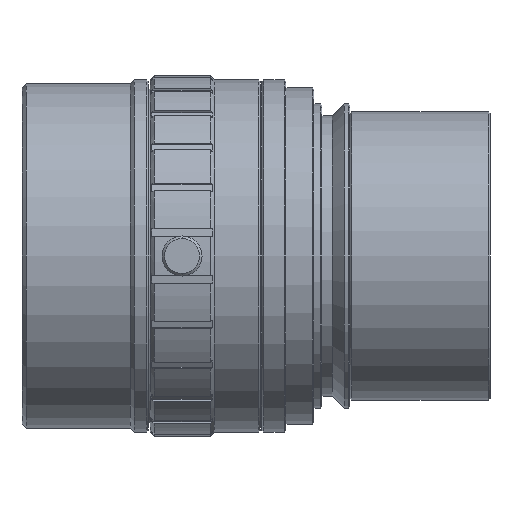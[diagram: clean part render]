
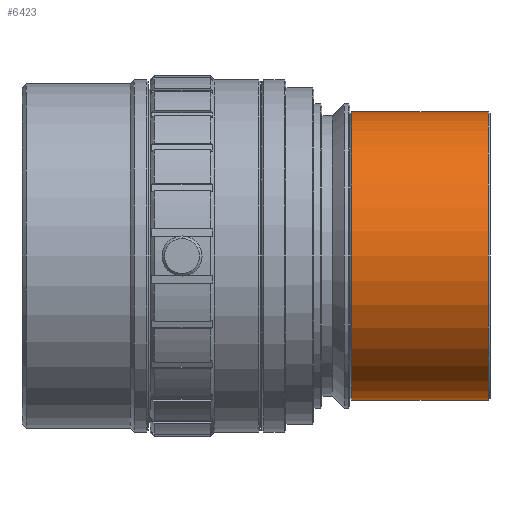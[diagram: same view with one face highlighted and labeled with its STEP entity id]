
A CAD part, front view. The second image highlights one B-rep face of the part: STEP entity #6423.
In plain terms, the highlighted cylindrical face has radius 18 mm (diameter 36 mm), a partial arc.
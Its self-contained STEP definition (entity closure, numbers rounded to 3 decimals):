
#677 = CARTESIAN_POINT ( 'NONE',  ( 2.671, 0., -18. ) ) ;
#713 = ORIENTED_EDGE ( 'NONE', *, *, #2428, .F. ) ;
#868 = VECTOR ( 'NONE', #1865, 1000. ) ;
#953 = EDGE_CURVE ( 'NONE', #2960, #1882, #6367, .T. ) ;
#1072 = VECTOR ( 'NONE', #6323, 1000. ) ;
#1091 = CARTESIAN_POINT ( 'NONE',  ( 41.169, 0., 18. ) ) ;
#1480 = DIRECTION ( 'NONE',  ( 0., 0., 1. ) ) ;
#1596 = ORIENTED_EDGE ( 'NONE', *, *, #5005, .T. ) ;
#1865 = DIRECTION ( 'NONE',  ( -1., 0., 0. ) ) ;
#1882 = VERTEX_POINT ( 'NONE', #1091 ) ;
#2196 = DIRECTION ( 'NONE',  ( -1., 0., 0. ) ) ;
#2428 = EDGE_CURVE ( 'NONE', #6172, #2960, #3978, .T. ) ;
#2670 = CARTESIAN_POINT ( 'NONE',  ( 41.169, 0., 0. ) ) ;
#2960 = VERTEX_POINT ( 'NONE', #6407 ) ;
#3021 = DIRECTION ( 'NONE',  ( -1., 0., 0. ) ) ;
#3200 = DIRECTION ( 'NONE',  ( 0., 0., 1. ) ) ;
#3211 = CYLINDRICAL_SURFACE ( 'NONE', #6271, 18. ) ;
#3364 = FACE_OUTER_BOUND ( 'NONE', #5166, .T. ) ;
#3918 = VERTEX_POINT ( 'NONE', #5248 ) ;
#3978 = LINE ( 'NONE', #677, #1072 ) ;
#4160 = AXIS2_PLACEMENT_3D ( 'NONE', #5299, #2196, #5825 ) ;
#4243 = CARTESIAN_POINT ( 'NONE',  ( 58.269, 0., -18. ) ) ;
#4254 = ORIENTED_EDGE ( 'NONE', *, *, #5868, .T. ) ;
#4745 = ORIENTED_EDGE ( 'NONE', *, *, #953, .F. ) ;
#5005 = EDGE_CURVE ( 'NONE', #6172, #3918, #6280, .T. ) ;
#5166 = EDGE_LOOP ( 'NONE', ( #713, #1596, #4254, #4745 ) ) ;
#5248 = CARTESIAN_POINT ( 'NONE',  ( 58.269, 0., 18. ) ) ;
#5299 = CARTESIAN_POINT ( 'NONE',  ( 58.269, 0., 0. ) ) ;
#5488 = CARTESIAN_POINT ( 'NONE',  ( 2.671, 0., 18. ) ) ;
#5825 = DIRECTION ( 'NONE',  ( 0., 0., 1. ) ) ;
#5868 = EDGE_CURVE ( 'NONE', #3918, #1882, #6192, .T. ) ;
#6094 = AXIS2_PLACEMENT_3D ( 'NONE', #2670, #6276, #3200 ) ;
#6106 = CARTESIAN_POINT ( 'NONE',  ( 2.671, 0., 0. ) ) ;
#6172 = VERTEX_POINT ( 'NONE', #4243 ) ;
#6192 = LINE ( 'NONE', #5488, #868 ) ;
#6271 = AXIS2_PLACEMENT_3D ( 'NONE', #6106, #3021, #1480 ) ;
#6276 = DIRECTION ( 'NONE',  ( -1., 0., 0. ) ) ;
#6280 = CIRCLE ( 'NONE', #4160, 18. ) ;
#6323 = DIRECTION ( 'NONE',  ( -1., 0., 0. ) ) ;
#6367 = CIRCLE ( 'NONE', #6094, 18. ) ;
#6407 = CARTESIAN_POINT ( 'NONE',  ( 41.169, 0., -18. ) ) ;
#6423 = ADVANCED_FACE ( 'NONE', ( #3364 ), #3211, .T. ) ;
